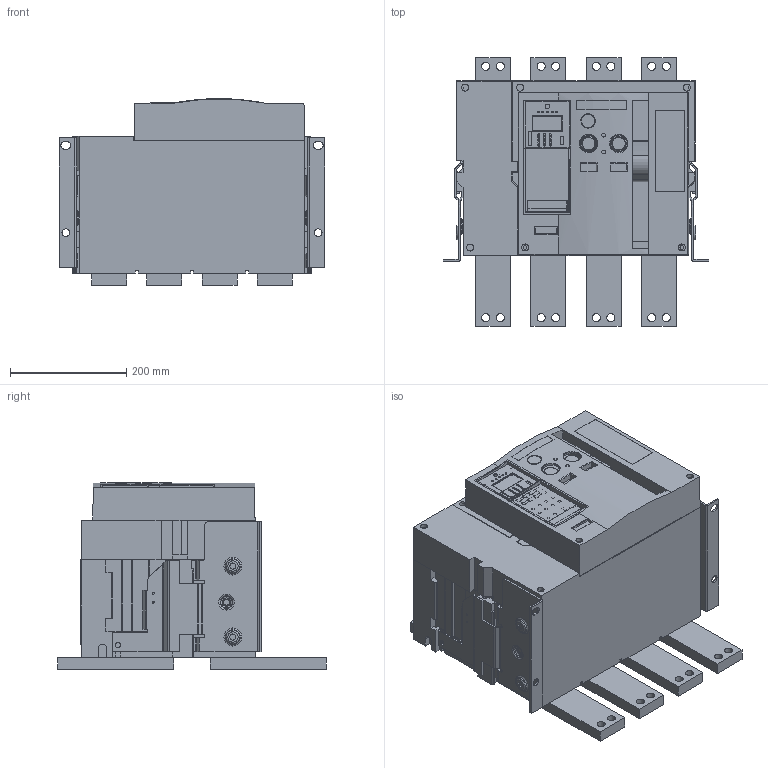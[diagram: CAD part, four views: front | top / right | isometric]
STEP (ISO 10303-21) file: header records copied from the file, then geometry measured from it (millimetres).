
FILE_DESCRIPTION (( 'STEP AP214' ), '1' );
FILE_NAME ('OptiMat A-S2-B-2000-4P-F-X.STEP', '2023-07-31T11:41:17', ( '' ), ( '' ), 'SwSTEP 2.0', 'SolidWorks 2018', '' );
FILE_SCHEMA (( 'AUTOMOTIVE_DESIGN' ));
Length unit declared in the file: millimetre
Products named in the file (1): OptiMat A-S2-B-2000-4P-F-X
Bounding box: 456 x 462 x 320.81 mm (x, y, z)
Volume: 32159347.7 mm3; surface area: 1843766.3 mm2
Topology: 23 solids, 46 shells, 2915 faces, 7823 edges, 5157 vertices
Faces by surface type: plane 1665, cylinder 1012, cone 144, torus 86, bspline 8
Entity records: 128591 total; most frequent: CARTESIAN_POINT 21651, DIRECTION 15850, ORIENTED_EDGE 15642, EDGE_CURVE 7821, AXIS2_PLACEMENT_3D 5343, VECTOR 5164, LINE 5164, VERTEX_POINT 5157
